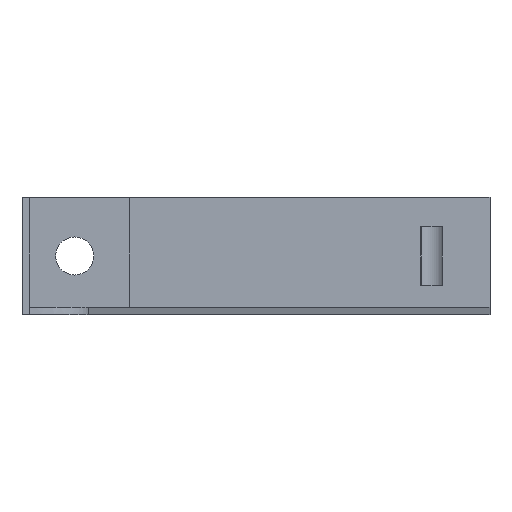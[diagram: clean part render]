
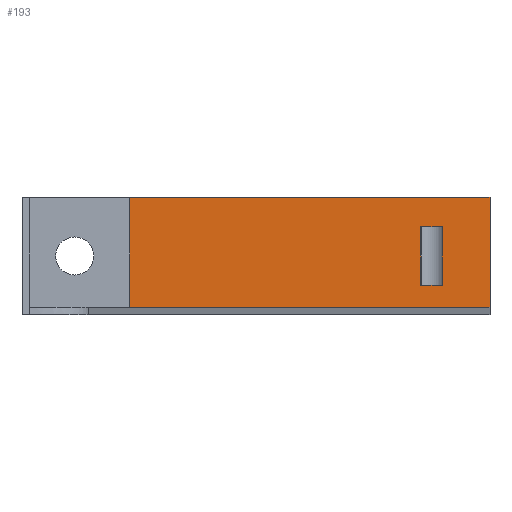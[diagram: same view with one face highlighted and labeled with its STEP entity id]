
A CAD part, left-side view. The second image highlights one B-rep face of the part: STEP entity #193.
In plain terms, the highlighted planar face has unit normal (-1, 0, 0).
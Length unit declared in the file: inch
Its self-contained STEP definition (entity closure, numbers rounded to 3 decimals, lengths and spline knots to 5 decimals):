
#193=ADVANCED_FACE('',(#407,#408),#409,.T.);
#407=FACE_OUTER_BOUND('',#897,.T.);
#408=FACE_BOUND('',#898,.T.);
#409=PLANE('',#899);
#897=EDGE_LOOP('',(#1382,#1383,#1384,#1385));
#898=EDGE_LOOP('',(#1386,#1387,#1388,#1389));
#899=AXIS2_PLACEMENT_3D('',#1390,#1391,#1392);
#1382=ORIENTED_EDGE('',*,*,#1595,.T.);
#1383=ORIENTED_EDGE('',*,*,#1680,.T.);
#1384=ORIENTED_EDGE('',*,*,#1684,.T.);
#1385=ORIENTED_EDGE('',*,*,#1544,.F.);
#1386=ORIENTED_EDGE('',*,*,#1685,.T.);
#1387=ORIENTED_EDGE('',*,*,#1630,.T.);
#1388=ORIENTED_EDGE('',*,*,#1682,.T.);
#1389=ORIENTED_EDGE('',*,*,#1519,.T.);
#1390=CARTESIAN_POINT('',(9.17906,-0.31781,0.0));
#1391=DIRECTION('',(-1.0,-0.0,0.0));
#1392=DIRECTION('',(0.0,-1.0,-0.0));
#1519=EDGE_CURVE('',#1812,#1810,#1813,.T.);
#1544=EDGE_CURVE('',#1849,#1851,#1852,.T.);
#1595=EDGE_CURVE('',#1849,#1879,#1928,.T.);
#1630=EDGE_CURVE('',#1978,#1976,#1979,.T.);
#1680=EDGE_CURVE('',#1879,#2034,#2036,.T.);
#1682=EDGE_CURVE('',#1976,#1812,#2038,.T.);
#1684=EDGE_CURVE('',#2034,#1851,#2040,.T.);
#1685=EDGE_CURVE('',#1810,#1978,#2041,.T.);
#1810=VERTEX_POINT('',#2292);
#1812=VERTEX_POINT('',#2295);
#1813=LINE('',#2296,#2297);
#1849=VERTEX_POINT('',#2361);
#1851=VERTEX_POINT('',#2364);
#1852=LINE('',#2365,#2366);
#1879=VERTEX_POINT('',#2414);
#1928=LINE('',#2506,#2507);
#1976=VERTEX_POINT('',#2596);
#1978=VERTEX_POINT('',#2599);
#1979=LINE('',#2600,#2601);
#2034=VERTEX_POINT('',#2716);
#2036=LINE('',#2719,#2720);
#2038=LINE('',#2722,#2723);
#2040=LINE('',#2725,#2726);
#2041=LINE('',#2727,#2728);
#2292=CARTESIAN_POINT('',(9.17906,-1.73239,0.9375));
#2295=CARTESIAN_POINT('',(9.17906,-1.50327,0.9375));
#2296=CARTESIAN_POINT('',(9.17906,-0.96782,0.9375));
#2297=VECTOR('',#2764,1.0);
#2361=CARTESIAN_POINT('',(9.17906,1.60719,0.075));
#2364=CARTESIAN_POINT('',(9.17906,1.60719,1.25));
#2365=CARTESIAN_POINT('',(9.17906,1.60719,0.0));
#2366=VECTOR('',#2779,1.0);
#2414=CARTESIAN_POINT('',(9.17906,-2.24281,0.075));
#2506=CARTESIAN_POINT('',(9.17906,-2.24281,0.075));
#2507=VECTOR('',#2805,1.0);
#2596=CARTESIAN_POINT('',(9.17906,-1.50327,0.3125));
#2599=CARTESIAN_POINT('',(9.17906,-1.73239,0.3125));
#2600=CARTESIAN_POINT('',(9.17906,-0.96782,0.3125));
#2601=VECTOR('',#2824,1.0);
#2716=CARTESIAN_POINT('',(9.17906,-2.24281,1.25));
#2719=CARTESIAN_POINT('',(9.17906,-2.24281,0.0));
#2720=VECTOR('',#2841,1.0);
#2722=CARTESIAN_POINT('',(9.17906,-1.50327,0.3125));
#2723=VECTOR('',#2842,1.0);
#2725=CARTESIAN_POINT('',(9.17906,-2.24281,1.25));
#2726=VECTOR('',#2843,1.0);
#2727=CARTESIAN_POINT('',(9.17906,-1.73239,0.3125));
#2728=VECTOR('',#2844,1.0);
#2764=DIRECTION('',(0.0,-1.0,0.0));
#2779=DIRECTION('',(0.0,0.0,1.0));
#2805=DIRECTION('',(-0.0,-1.0,-0.0));
#2824=DIRECTION('',(0.0,1.0,0.0));
#2841=DIRECTION('',(0.0,0.0,1.0));
#2842=DIRECTION('',(0.0,0.0,1.0));
#2843=DIRECTION('',(0.0,1.0,0.0));
#2844=DIRECTION('',(0.0,0.0,-1.0));
